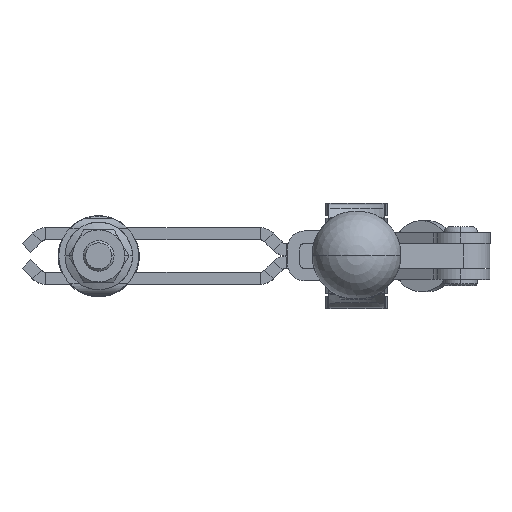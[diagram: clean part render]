
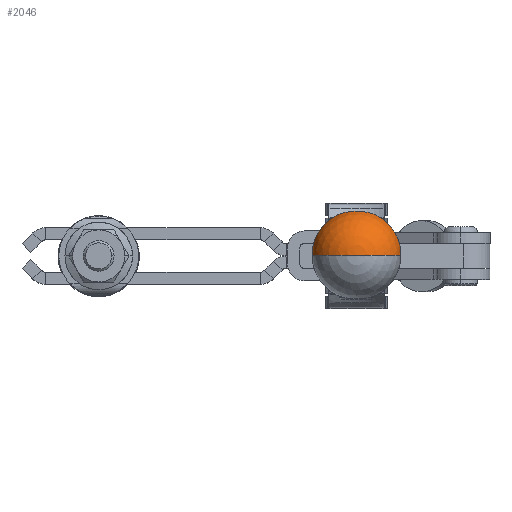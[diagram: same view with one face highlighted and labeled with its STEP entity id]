
A CAD part, top view. The second image highlights one B-rep face of the part: STEP entity #2046.
In plain terms, the highlighted spherical face has radius 14.5 mm.
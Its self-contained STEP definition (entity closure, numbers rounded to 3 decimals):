
#2046=ADVANCED_FACE('',(#6107),#6108,.T.);
#6107=FACE_OUTER_BOUND('',#22175,.T.);
#6108=SPHERICAL_SURFACE('',#22176,14.5);
#22175=EDGE_LOOP('',(#35847,#35848,#35849,#35850,#35851,#35852,#35853,#35854,#35855,#35856,#35857));
#22176=AXIS2_PLACEMENT_3D('',#35858,#35859,#35860);
#35847=ORIENTED_EDGE('',*,*,#39278,.T.);
#35848=ORIENTED_EDGE('',*,*,#39288,.T.);
#35849=ORIENTED_EDGE('',*,*,#42302,.T.);
#35850=ORIENTED_EDGE('',*,*,#39311,.F.);
#35851=ORIENTED_EDGE('',*,*,#42137,.T.);
#35852=ORIENTED_EDGE('',*,*,#42142,.T.);
#35853=ORIENTED_EDGE('',*,*,#42147,.T.);
#35854=ORIENTED_EDGE('',*,*,#42152,.T.);
#35855=ORIENTED_EDGE('',*,*,#42154,.T.);
#35856=ORIENTED_EDGE('',*,*,#39303,.F.);
#35857=ORIENTED_EDGE('',*,*,#42266,.T.);
#35858=CARTESIAN_POINT('',(-17.5,0.0,236.797));
#35859=DIRECTION('',(0.,0.0,-1.0));
#35860=DIRECTION('',(1.0,0.0,0.));
#39278=EDGE_CURVE('',#45928,#45929,#45930,.T.);
#39288=EDGE_CURVE('',#45929,#45947,#45949,.T.);
#39303=EDGE_CURVE('',#45977,#45979,#45980,.T.);
#39311=EDGE_CURVE('',#45993,#45995,#45996,.T.);
#42137=EDGE_CURVE('',#45993,#50538,#50540,.T.);
#42142=EDGE_CURVE('',#50538,#50546,#50548,.T.);
#42147=EDGE_CURVE('',#50546,#50554,#50556,.T.);
#42152=EDGE_CURVE('',#50554,#50562,#50564,.T.);
#42154=EDGE_CURVE('',#50562,#45979,#50566,.T.);
#42266=EDGE_CURVE('',#45977,#45928,#50725,.T.);
#42302=EDGE_CURVE('',#45947,#45995,#50763,.T.);
#45928=VERTEX_POINT('',#55493);
#45929=VERTEX_POINT('',#55494);
#45930=CIRCLE('',#55495,14.5);
#45947=VERTEX_POINT('',#55535);
#45949=CIRCLE('',#55543,14.5);
#45977=VERTEX_POINT('',#55650);
#45979=VERTEX_POINT('',#55655);
#45980=CIRCLE('',#55656,14.493);
#45993=VERTEX_POINT('',#55711);
#45995=VERTEX_POINT('',#55716);
#45996=CIRCLE('',#55717,14.493);
#50538=VERTEX_POINT('',#75722);
#50540=B_SPLINE_CURVE_WITH_KNOTS('',3,(#75724,#75725,#75726,#75727),.UNSPECIFIED.,.F.,.F.,(4,4),(0.0,1.0),.UNSPECIFIED.);
#50546=VERTEX_POINT('',#75741);
#50548=B_SPLINE_CURVE_WITH_KNOTS('',3,(#75743,#75744,#75745,#75746),.UNSPECIFIED.,.F.,.F.,(4,4),(0.0,1.0),.UNSPECIFIED.);
#50554=VERTEX_POINT('',#75791);
#50556=B_SPLINE_CURVE_WITH_KNOTS('',3,(#75793,#75794,#75795,#75796,#75797,#75798),.UNSPECIFIED.,.F.,.F.,(4,2,4),(0.0,0.5,1.),.UNSPECIFIED.);
#50562=VERTEX_POINT('',#75812);
#50564=B_SPLINE_CURVE_WITH_KNOTS('',3,(#75814,#75815,#75816,#75817),.UNSPECIFIED.,.F.,.F.,(4,4),(0.0,1.),.UNSPECIFIED.);
#50566=B_SPLINE_CURVE_WITH_KNOTS('',3,(#75825,#75826,#75827,#75828),.UNSPECIFIED.,.F.,.F.,(4,4),(0.0,1.0),.UNSPECIFIED.);
#50725=B_SPLINE_CURVE_WITH_KNOTS('',3,(#76363,#76364,#76365,#76366,#76367,#76368,#76369),.UNSPECIFIED.,.F.,.F.,(4,3,4),(0.0,0.977,1.0),.UNSPECIFIED.);
#50763=B_SPLINE_CURVE_WITH_KNOTS('',3,(#76545,#76546,#76547,#76548,#76549,#76550,#76551),.UNSPECIFIED.,.F.,.F.,(4,3,4),(0.0,0.023,1.0),.UNSPECIFIED.);
#55493=CARTESIAN_POINT('',(-31.954,0.0,237.956));
#55494=CARTESIAN_POINT('',(-17.5,0.0,251.297));
#55495=AXIS2_PLACEMENT_3D('',#80983,#80984,#80985);
#55535=CARTESIAN_POINT('',(-3.046,0.0,237.956));
#55543=AXIS2_PLACEMENT_3D('',#80992,#80993,#80994);
#55650=CARTESIAN_POINT('',(-31.927,1.386,236.355));
#55655=CARTESIAN_POINT('',(-24.132,12.887,236.355));
#55656=AXIS2_PLACEMENT_3D('',#81003,#81004,#81005);
#55711=CARTESIAN_POINT('',(-10.868,12.887,236.355));
#55716=CARTESIAN_POINT('',(-3.073,1.386,236.355));
#55717=AXIS2_PLACEMENT_3D('',#81006,#81007,#81008);
#75722=CARTESIAN_POINT('',(-11.387,13.147,236.941));
#75724=CARTESIAN_POINT('',(-10.868,12.887,236.355));
#75725=CARTESIAN_POINT('',(-11.03,12.977,236.558));
#75726=CARTESIAN_POINT('',(-11.204,13.064,236.754));
#75727=CARTESIAN_POINT('',(-11.387,13.147,236.941));
#75741=CARTESIAN_POINT('',(-12.138,13.447,237.626));
#75743=CARTESIAN_POINT('',(-11.387,13.147,236.941));
#75744=CARTESIAN_POINT('',(-11.622,13.254,237.183));
#75745=CARTESIAN_POINT('',(-11.873,13.354,237.412));
#75746=CARTESIAN_POINT('',(-12.138,13.447,237.626));
#75791=CARTESIAN_POINT('',(-22.862,13.447,237.626));
#75793=CARTESIAN_POINT('',(-12.138,13.447,237.626));
#75794=CARTESIAN_POINT('',(-13.62,13.964,238.821));
#75795=CARTESIAN_POINT('',(-15.547,14.242,239.518));
#75796=CARTESIAN_POINT('',(-19.446,14.243,239.519));
#75797=CARTESIAN_POINT('',(-21.38,13.964,238.821));
#75798=CARTESIAN_POINT('',(-22.862,13.447,237.626));
#75812=CARTESIAN_POINT('',(-23.613,13.147,236.941));
#75814=CARTESIAN_POINT('',(-22.862,13.447,237.626));
#75815=CARTESIAN_POINT('',(-23.127,13.354,237.412));
#75816=CARTESIAN_POINT('',(-23.378,13.254,237.183));
#75817=CARTESIAN_POINT('',(-23.613,13.147,236.941));
#75825=CARTESIAN_POINT('',(-23.613,13.147,236.941));
#75826=CARTESIAN_POINT('',(-23.796,13.064,236.754));
#75827=CARTESIAN_POINT('',(-23.97,12.977,236.558));
#75828=CARTESIAN_POINT('',(-24.132,12.887,236.355));
#76363=CARTESIAN_POINT('',(-31.927,1.386,236.355));
#76364=CARTESIAN_POINT('',(-31.986,0.936,236.875));
#76365=CARTESIAN_POINT('',(-31.996,0.483,237.4));
#76366=CARTESIAN_POINT('',(-31.956,0.031,237.92));
#76367=CARTESIAN_POINT('',(-31.956,0.021,237.932));
#76368=CARTESIAN_POINT('',(-31.955,0.01,237.944));
#76369=CARTESIAN_POINT('',(-31.954,0.0,237.956));
#76545=CARTESIAN_POINT('',(-3.046,0.0,237.956));
#76546=CARTESIAN_POINT('',(-3.045,0.01,237.944));
#76547=CARTESIAN_POINT('',(-3.044,0.021,237.932));
#76548=CARTESIAN_POINT('',(-3.044,0.031,237.92));
#76549=CARTESIAN_POINT('',(-3.004,0.483,237.4));
#76550=CARTESIAN_POINT('',(-3.014,0.936,236.875));
#76551=CARTESIAN_POINT('',(-3.073,1.386,236.355));
#80983=CARTESIAN_POINT('',(-17.5,0.0,236.797));
#80984=DIRECTION('',(0.,1.0,0.0));
#80985=DIRECTION('',(0.0,0.0,-1.0));
#80992=CARTESIAN_POINT('',(-17.5,0.0,236.797));
#80993=DIRECTION('',(0.,1.0,0.0));
#80994=DIRECTION('',(0.0,0.0,-1.0));
#81003=CARTESIAN_POINT('',(-17.5,0.0,236.355));
#81004=DIRECTION('',(0.,0.0,-1.0));
#81005=DIRECTION('',(-1.0,0.0,0.));
#81006=CARTESIAN_POINT('',(-17.5,0.0,236.355));
#81007=DIRECTION('',(0.,0.0,-1.0));
#81008=DIRECTION('',(-1.0,0.0,0.));
